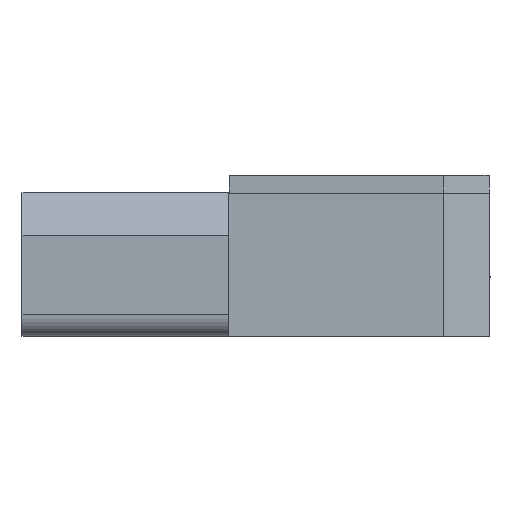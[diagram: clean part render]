
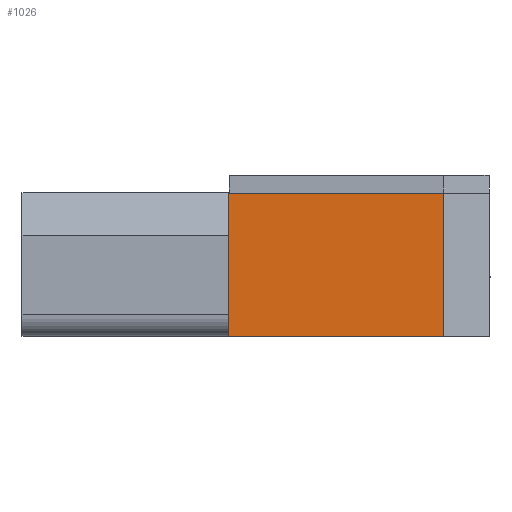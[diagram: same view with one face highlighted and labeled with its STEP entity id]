
A CAD part, front view. The second image highlights one B-rep face of the part: STEP entity #1026.
In plain terms, the highlighted planar face has unit normal (0, -1, 0).
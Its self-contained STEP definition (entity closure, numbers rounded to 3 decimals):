
#1026=ADVANCED_FACE('',(#2652),#2653,.F.);
#2652=FACE_OUTER_BOUND('',#5079,.T.);
#2653=PLANE('',#5080);
#5079=EDGE_LOOP('',(#8126,#8127,#8128,#8129));
#5080=AXIS2_PLACEMENT_3D('',#8130,#8131,#8132);
#8126=ORIENTED_EDGE('',*,*,#14942,.T.);
#8127=ORIENTED_EDGE('',*,*,#14932,.F.);
#8128=ORIENTED_EDGE('',*,*,#14943,.F.);
#8129=ORIENTED_EDGE('',*,*,#14944,.T.);
#8130=CARTESIAN_POINT('',(0.0,0.0,0.0));
#8131=DIRECTION('',(0.0,1.0,0.0));
#8132=DIRECTION('',(1.0,-0.0,0.0));
#14932=EDGE_CURVE('',#17762,#17741,#17764,.T.);
#14942=EDGE_CURVE('',#17780,#17741,#17781,.T.);
#14943=EDGE_CURVE('',#17782,#17762,#17783,.T.);
#14944=EDGE_CURVE('',#17782,#17780,#17784,.T.);
#17741=VERTEX_POINT('',#21878);
#17762=VERTEX_POINT('',#21907);
#17764=LINE('',#21910,#21911);
#17780=VERTEX_POINT('',#21931);
#17781=LINE('',#21932,#21933);
#17782=VERTEX_POINT('',#21934);
#17783=LINE('',#21935,#21936);
#17784=LINE('',#21937,#21938);
#21878=CARTESIAN_POINT('',(0.0,0.0,40.0));
#21907=CARTESIAN_POINT('',(0.0,0.0,0.0));
#21910=CARTESIAN_POINT('',(0.0,0.0,0.0));
#21911=VECTOR('',#27704,1.0);
#21931=CARTESIAN_POINT('',(60.,0.0,40.0));
#21932=CARTESIAN_POINT('',(0.0,0.0,40.0));
#21933=VECTOR('',#27715,1.0);
#21934=CARTESIAN_POINT('',(60.,0.0,0.0));
#21935=CARTESIAN_POINT('',(0.0,0.0,0.0));
#21936=VECTOR('',#27716,1.0);
#21937=CARTESIAN_POINT('',(60.,0.0,0.0));
#21938=VECTOR('',#27717,1.0);
#27704=DIRECTION('',(0.0,0.0,1.0));
#27715=DIRECTION('',(-1.0,0.0,0.0));
#27716=DIRECTION('',(-1.0,0.0,0.0));
#27717=DIRECTION('',(0.0,0.0,1.0));
